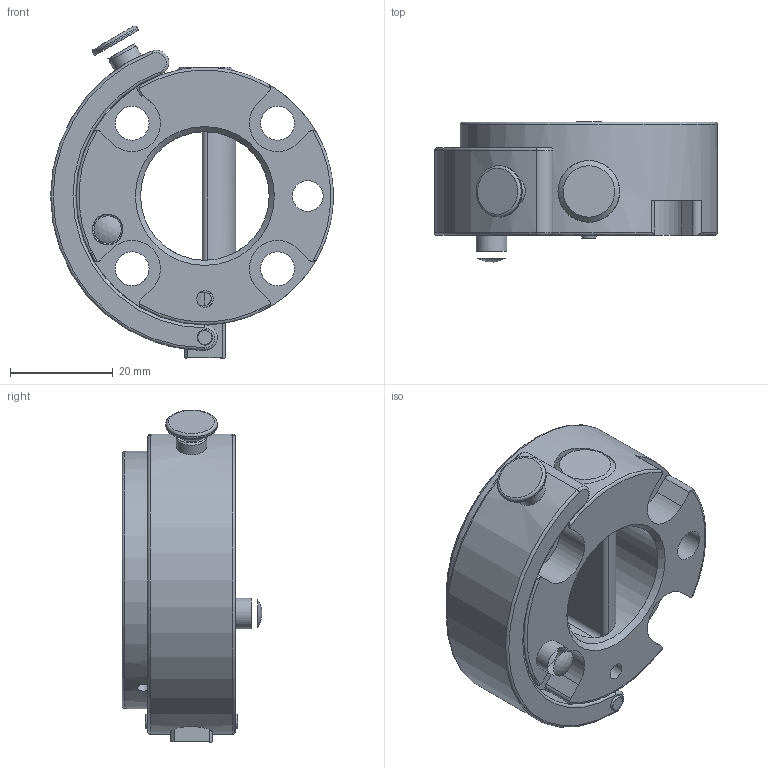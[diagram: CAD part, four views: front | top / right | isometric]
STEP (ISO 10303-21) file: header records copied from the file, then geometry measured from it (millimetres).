
FILE_DESCRIPTION(/* description */ (''),/* implementation_level */ '2;1');
FILE_NAME(/* name */ 'G-MGW050-2O.stp',/* time_stamp */ '2023-11-08T13:24:46+01:00',/* author */ ('ysplieth'),/* organization */ (''),/* preprocessor_version */ 'ST-DEVELOPER v20',/* originating_system */ 'Autodesk Inventor 2024',/* authorisation */ '');
FILE_SCHEMA (('AUTOMOTIVE_DESIGN { 1 0 10303 214 3 1 1 }'));
Length unit declared in the file: millimetre
Products named in the file (1): Bauteil7
Bounding box: 55 x 27.17 x 64.55 mm (x, y, z)
Volume: 34849.4 mm3; surface area: 15140.6 mm2
Topology: 1 solids, 2 shells, 147 faces, 385 edges, 248 vertices
Faces by surface type: cylinder 59, plane 48, cone 17, torus 17, bspline 4, sphere 2
Full cylindrical faces by diameter (mm): 2.459 x2, 2.5 x1, 3 x1, 3.1 x1, 3.242 x3, 3.5 x1, 5.8 x1, 6 x4, 6.6 x4, 10 x1, 12 x2, 25 x1, 50 x1
Entity records: 5512 total; most frequent: CARTESIAN_POINT 1630, DIRECTION 773, ORIENTED_EDGE 762, EDGE_CURVE 381, AXIS2_PLACEMENT_3D 315, VERTEX_POINT 248, EDGE_LOOP 181, CIRCLE 170
